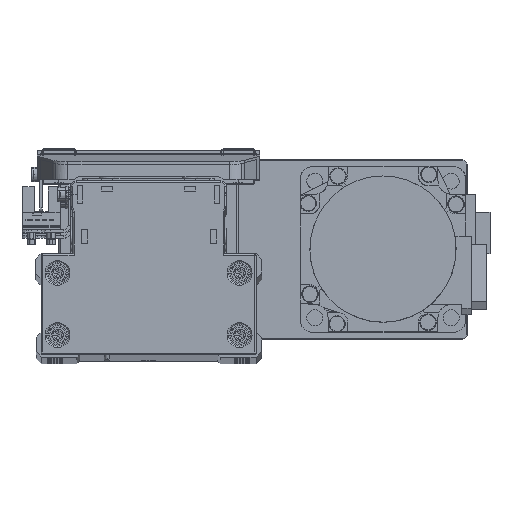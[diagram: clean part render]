
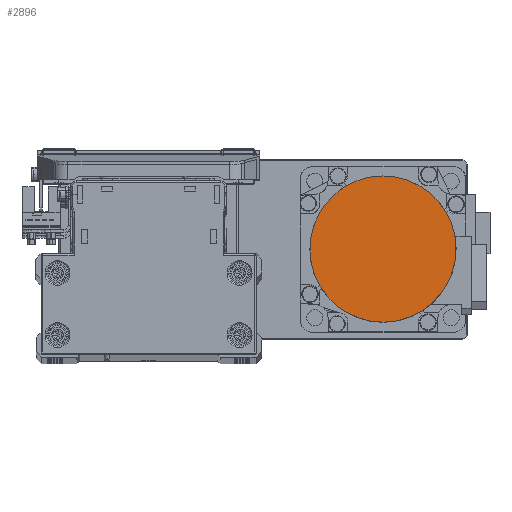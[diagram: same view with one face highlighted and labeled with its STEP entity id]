
A CAD part, top view. The second image highlights one B-rep face of the part: STEP entity #2896.
In plain terms, the highlighted planar face has unit normal (0, 0, 1) as drawn and (0, 0, -1) by its records, which use the part's own axes.
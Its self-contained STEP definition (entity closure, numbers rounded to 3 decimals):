
#289 = CARTESIAN_POINT ( 'NONE',  ( 22.998, 13.28, -88. ) ) ;
#498 = CARTESIAN_POINT ( 'NONE',  ( -6.871, 25.652, -88. ) ) ;
#698 = CARTESIAN_POINT ( 'NONE',  ( -26.5, 1.734, -88. ) ) ;
#1185 = CARTESIAN_POINT ( 'NONE',  ( -13.28, -22.998, -88. ) ) ;
#1386 = CARTESIAN_POINT ( 'NONE',  ( 17.512, -19.965, -88. ) ) ;
#2896 = ADVANCED_FACE ( 'NONE', ( #19403 ), #32523, .F. ) ;
#3085 = CARTESIAN_POINT ( 'NONE',  ( 0., 0., -88. ) ) ;
#3494 = CARTESIAN_POINT ( 'NONE',  ( 25.652, 6.871, -88. ) ) ;
#3702 = CARTESIAN_POINT ( 'NONE',  ( 1.734, 26.5, -88. ) ) ;
#3920 = CARTESIAN_POINT ( 'NONE',  ( -25.147, 8.539, -88. ) ) ;
#4392 = CARTESIAN_POINT ( 'NONE',  ( -19.965, -17.512, -88. ) ) ;
#4614 = CARTESIAN_POINT ( 'NONE',  ( 11.744, -23.819, -88. ) ) ;
#6719 = CARTESIAN_POINT ( 'NONE',  ( 26.5, 0., -88. ) ) ;
#6921 = CARTESIAN_POINT ( 'NONE',  ( 8.539, 25.147, -88. ) ) ;
#7130 = CARTESIAN_POINT ( 'NONE',  ( -21.07, 16.165, -88. ) ) ;
#7614 = CARTESIAN_POINT ( 'NONE',  ( -23.819, -11.744, -88. ) ) ;
#7836 = CARTESIAN_POINT ( 'NONE',  ( 3.469, -26.329, -88. ) ) ;
#8050 = CARTESIAN_POINT ( 'NONE',  ( 26.329, -3.469, -88. ) ) ;
#8201 = AXIS2_PLACEMENT_3D ( 'NONE', #3085, #16181, #29308 ) ;
#10162 = CARTESIAN_POINT ( 'NONE',  ( 16.165, 21.07, -88. ) ) ;
#10362 = CARTESIAN_POINT ( 'NONE',  ( -16.165, 21.07, -88. ) ) ;
#10844 = CARTESIAN_POINT ( 'NONE',  ( -26.329, -3.469, -88. ) ) ;
#11059 = CARTESIAN_POINT ( 'NONE',  ( -3.469, -26.329, -88. ) ) ;
#11275 = CARTESIAN_POINT ( 'NONE',  ( 23.819, -11.744, -88. ) ) ;
#13371 = CARTESIAN_POINT ( 'NONE',  ( 21.07, 16.165, -88. ) ) ;
#13579 = CARTESIAN_POINT ( 'NONE',  ( -8.539, 25.147, -88. ) ) ;
#13784 = CARTESIAN_POINT ( 'NONE',  ( -26.5, 0., -88. ) ) ;
#14152 = CARTESIAN_POINT ( 'NONE',  ( -26.5, 0., -88. ) ) ;
#14272 = CARTESIAN_POINT ( 'NONE',  ( -11.744, -23.819, -88. ) ) ;
#14480 = CARTESIAN_POINT ( 'NONE',  ( 19.965, -17.512, -88. ) ) ;
#14937 = EDGE_CURVE ( 'NONE', #31834, #15612, #34184, .T. ) ;
#15612 = VERTEX_POINT ( 'NONE', #30028 ) ;
#16181 = DIRECTION ( 'NONE',  ( 0., 0., 1. ) ) ;
#16590 = CARTESIAN_POINT ( 'NONE',  ( 25.147, 8.539, -88. ) ) ;
#16800 = CARTESIAN_POINT ( 'NONE',  ( -1.734, 26.5, -88. ) ) ;
#17014 = CARTESIAN_POINT ( 'NONE',  ( -25.652, 6.871, -88. ) ) ;
#17487 = CARTESIAN_POINT ( 'NONE',  ( -17.512, -19.965, -88. ) ) ;
#17684 = B_SPLINE_CURVE_WITH_KNOTS ( 'NONE', 3,
 ( #6719, #19814, #32918, #3494, #16590, #29718, #289, #13371, #26477, #39577, #10162, #23247, #36340, #6921, #20024, #33126, #3702, #16800, #29925, #498, #13579, #26678, #39774, #10362, #23453, #36554, #7130, #20233, #33345, #3920, #17014, #30126, #698, #13784 ),
 .UNSPECIFIED., .F., .F.,
 ( 4, 2, 2, 2, 2, 2, 2, 2, 2, 2, 2, 2, 2, 2, 2, 2, 4 ),
 ( 0., 0.063, 0.125, 0.188, 0.25, 0.313, 0.375, 0.438, 0.5, 0.563, 0.625, 0.688, 0.75, 0.813, 0.875, 0.938, 1. ),
 .UNSPECIFIED. ) ;
#17710 = CARTESIAN_POINT ( 'NONE',  ( 13.28, -22.998, -88. ) ) ;
#19403 = FACE_OUTER_BOUND ( 'NONE', #27002, .T. ) ;
#19814 = CARTESIAN_POINT ( 'NONE',  ( 26.5, 1.734, -88. ) ) ;
#20024 = CARTESIAN_POINT ( 'NONE',  ( 6.871, 25.652, -88. ) ) ;
#20233 = CARTESIAN_POINT ( 'NONE',  ( -22.998, 13.28, -88. ) ) ;
#20714 = CARTESIAN_POINT ( 'NONE',  ( -22.998, -13.28, -88. ) ) ;
#20918 = CARTESIAN_POINT ( 'NONE',  ( 6.871, -25.652, -88. ) ) ;
#21139 = CARTESIAN_POINT ( 'NONE',  ( 26.5, -1.734, -88. ) ) ;
#22540 = ORIENTED_EDGE ( 'NONE', *, *, #14937, .F. ) ;
#23247 = CARTESIAN_POINT ( 'NONE',  ( 13.28, 22.998, -88. ) ) ;
#23453 = CARTESIAN_POINT ( 'NONE',  ( -17.512, 19.965, -88. ) ) ;
#23934 = CARTESIAN_POINT ( 'NONE',  ( -25.652, -6.871, -88. ) ) ;
#24150 = CARTESIAN_POINT ( 'NONE',  ( -1.734, -26.5, -88. ) ) ;
#24370 = CARTESIAN_POINT ( 'NONE',  ( 25.147, -8.539, -88. ) ) ;
#26477 = CARTESIAN_POINT ( 'NONE',  ( 19.965, 17.512, -88. ) ) ;
#26678 = CARTESIAN_POINT ( 'NONE',  ( -11.744, 23.819, -88. ) ) ;
#27002 = EDGE_LOOP ( 'NONE', ( #30507, #22540 ) ) ;
#27160 = CARTESIAN_POINT ( 'NONE',  ( -26.5, 0., -88. ) ) ;
#27374 = CARTESIAN_POINT ( 'NONE',  ( -8.539, -25.147, -88. ) ) ;
#27595 = CARTESIAN_POINT ( 'NONE',  ( 21.07, -16.165, -88. ) ) ;
#29308 = DIRECTION ( 'NONE',  ( 1., 0., 0. ) ) ;
#29718 = CARTESIAN_POINT ( 'NONE',  ( 23.819, 11.744, -88. ) ) ;
#29925 = CARTESIAN_POINT ( 'NONE',  ( -3.469, 26.329, -88. ) ) ;
#30028 = CARTESIAN_POINT ( 'NONE',  ( 26.5, 0., -88. ) ) ;
#30126 = CARTESIAN_POINT ( 'NONE',  ( -26.329, 3.469, -88. ) ) ;
#30507 = ORIENTED_EDGE ( 'NONE', *, *, #40073, .F. ) ;
#30610 = CARTESIAN_POINT ( 'NONE',  ( -16.165, -21.07, -88. ) ) ;
#30821 = CARTESIAN_POINT ( 'NONE',  ( 16.165, -21.07, -88. ) ) ;
#31834 = VERTEX_POINT ( 'NONE', #14152 ) ;
#32523 = PLANE ( 'NONE',  #8201 ) ;
#32918 = CARTESIAN_POINT ( 'NONE',  ( 26.329, 3.469, -88. ) ) ;
#33126 = CARTESIAN_POINT ( 'NONE',  ( 3.469, 26.329, -88. ) ) ;
#33345 = CARTESIAN_POINT ( 'NONE',  ( -23.819, 11.744, -88. ) ) ;
#33823 = CARTESIAN_POINT ( 'NONE',  ( -21.07, -16.165, -88. ) ) ;
#34039 = CARTESIAN_POINT ( 'NONE',  ( 8.539, -25.147, -88. ) ) ;
#34184 = B_SPLINE_CURVE_WITH_KNOTS ( 'NONE', 3,
 ( #27160, #40254, #10844, #23934, #37028, #7614, #20714, #33823, #4392, #17487, #30610, #1185, #14272, #27374, #40468, #11059, #24150, #37246, #7836, #20918, #34039, #4614, #17710, #30821, #1386, #14480, #27595, #40684, #11275, #24370, #37459, #8050, #21139, #34250 ),
 .UNSPECIFIED., .F., .F.,
 ( 4, 2, 2, 2, 2, 2, 2, 2, 2, 2, 2, 2, 2, 2, 2, 2, 4 ),
 ( 0., 0.063, 0.125, 0.188, 0.25, 0.313, 0.375, 0.438, 0.5, 0.563, 0.625, 0.688, 0.75, 0.813, 0.875, 0.938, 1. ),
 .UNSPECIFIED. ) ;
#34250 = CARTESIAN_POINT ( 'NONE',  ( 26.5, 0., -88. ) ) ;
#36340 = CARTESIAN_POINT ( 'NONE',  ( 11.744, 23.819, -88. ) ) ;
#36554 = CARTESIAN_POINT ( 'NONE',  ( -19.965, 17.512, -88. ) ) ;
#37028 = CARTESIAN_POINT ( 'NONE',  ( -25.147, -8.539, -88. ) ) ;
#37246 = CARTESIAN_POINT ( 'NONE',  ( 1.734, -26.5, -88. ) ) ;
#37459 = CARTESIAN_POINT ( 'NONE',  ( 25.652, -6.871, -88. ) ) ;
#39577 = CARTESIAN_POINT ( 'NONE',  ( 17.512, 19.965, -88. ) ) ;
#39774 = CARTESIAN_POINT ( 'NONE',  ( -13.28, 22.998, -88. ) ) ;
#40073 = EDGE_CURVE ( 'NONE', #15612, #31834, #17684, .T. ) ;
#40254 = CARTESIAN_POINT ( 'NONE',  ( -26.5, -1.734, -88. ) ) ;
#40468 = CARTESIAN_POINT ( 'NONE',  ( -6.871, -25.652, -88. ) ) ;
#40684 = CARTESIAN_POINT ( 'NONE',  ( 22.998, -13.28, -88. ) ) ;
